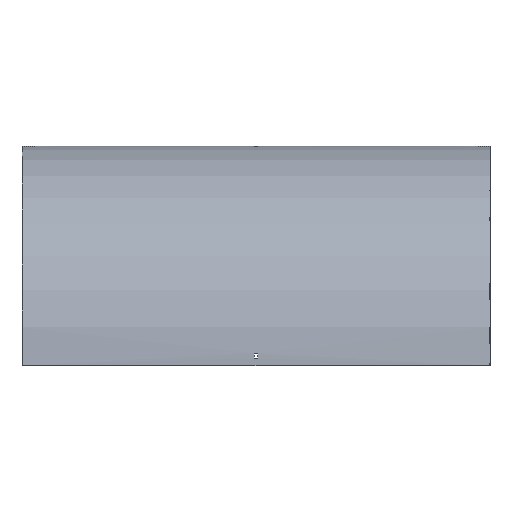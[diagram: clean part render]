
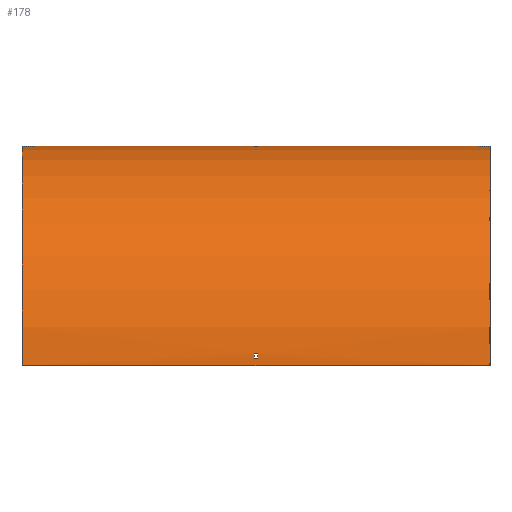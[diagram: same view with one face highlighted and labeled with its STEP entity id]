
A CAD part, top view. The second image highlights one B-rep face of the part: STEP entity #178.
In plain terms, the highlighted cylindrical face has radius 376.5 mm (diameter 753 mm), a partial arc.
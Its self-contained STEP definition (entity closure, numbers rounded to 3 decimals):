
#2 = DIRECTION ( 'NONE',  ( 0., 0., -1. ) ) ;
#4 = CIRCLE ( 'NONE', #183, 376.5 ) ;
#13 = AXIS2_PLACEMENT_3D ( 'NONE', #404, #540, #173 ) ;
#15 = EDGE_CURVE ( 'NONE', #393, #570, #34, .T. ) ;
#16 = EDGE_CURVE ( 'NONE', #493, #180, #278, .T. ) ;
#20 = CIRCLE ( 'NONE', #408, 376.5 ) ;
#34 = LINE ( 'NONE', #330, #565 ) ;
#35 = CIRCLE ( 'NONE', #409, 376.5 ) ;
#38 = DIRECTION ( 'NONE',  ( -1., 0., 0. ) ) ;
#39 = FACE_OUTER_BOUND ( 'NONE', #499, .T. ) ;
#55 = ORIENTED_EDGE ( 'NONE', *, *, #69, .T. ) ;
#61 = EDGE_CURVE ( 'NONE', #428, #260, #424, .T. ) ;
#62 = ORIENTED_EDGE ( 'NONE', *, *, #201, .F. ) ;
#69 = EDGE_CURVE ( 'NONE', #536, #566, #194, .T. ) ;
#77 = EDGE_CURVE ( 'NONE', #180, #547, #186, .T. ) ;
#84 = EDGE_LOOP ( 'NONE', ( #486, #598, #377, #535 ) ) ;
#98 = CARTESIAN_POINT ( 'NONE',  ( 401.5, 0., 0. ) ) ;
#103 = EDGE_CURVE ( 'NONE', #566, #260, #35, .T. ) ;
#105 = CIRCLE ( 'NONE', #568, 376.5 ) ;
#106 = CARTESIAN_POINT ( 'NONE',  ( 401.5, 0., 0. ) ) ;
#107 = DIRECTION ( 'NONE',  ( 1., 0., 0. ) ) ;
#113 = CARTESIAN_POINT ( 'NONE',  ( -3.25, -355.5, 375.914 ) ) ;
#116 = DIRECTION ( 'NONE',  ( 0., 0., -1. ) ) ;
#157 = ORIENTED_EDGE ( 'NONE', *, *, #103, .T. ) ;
#165 = CARTESIAN_POINT ( 'NONE',  ( -401.5, 0., 0. ) ) ;
#169 = LINE ( 'NONE', #357, #458 ) ;
#173 = DIRECTION ( 'NONE',  ( 0., 0., 1. ) ) ;
#177 = VERTEX_POINT ( 'NONE', #505 ) ;
#178 = ADVANCED_FACE ( 'NONE', ( #39, #491, #231 ), #501, .T. ) ;
#180 = VERTEX_POINT ( 'NONE', #420 ) ;
#183 = AXIS2_PLACEMENT_3D ( 'NONE', #255, #38, #315 ) ;
#186 = LINE ( 'NONE', #471, #329 ) ;
#194 = LINE ( 'NONE', #98, #295 ) ;
#200 = ORIENTED_EDGE ( 'NONE', *, *, #219, .F. ) ;
#201 = EDGE_CURVE ( 'NONE', #536, #428, #336, .T. ) ;
#207 = ORIENTED_EDGE ( 'NONE', *, *, #225, .F. ) ;
#214 = CARTESIAN_POINT ( 'NONE',  ( 3.25, -376.5, 0. ) ) ;
#219 = EDGE_CURVE ( 'NONE', #570, #457, #105, .T. ) ;
#225 = EDGE_CURVE ( 'NONE', #177, #393, #20, .T. ) ;
#231 = FACE_BOUND ( 'NONE', #300, .T. ) ;
#236 = DIRECTION ( 'NONE',  ( 1., 0., 0. ) ) ;
#237 = CARTESIAN_POINT ( 'NONE',  ( -401.5, -376.5, 0. ) ) ;
#255 = CARTESIAN_POINT ( 'NONE',  ( -3.25, -376.5, 0. ) ) ;
#256 = DIRECTION ( 'NONE',  ( 1., 0., 0. ) ) ;
#260 = VERTEX_POINT ( 'NONE', #553 ) ;
#273 = DIRECTION ( 'NONE',  ( -1., 0., 0. ) ) ;
#278 = CIRCLE ( 'NONE', #340, 376.5 ) ;
#281 = VECTOR ( 'NONE', #379, 1000. ) ;
#282 = DIRECTION ( 'NONE',  ( -1., 0., 0. ) ) ;
#295 = VECTOR ( 'NONE', #282, 1000. ) ;
#298 = DIRECTION ( 'NONE',  ( 1., 0., 0. ) ) ;
#300 = EDGE_LOOP ( 'NONE', ( #200, #318, #207, #396 ) ) ;
#301 = CARTESIAN_POINT ( 'NONE',  ( 3.25, -355.5, 375.914 ) ) ;
#315 = DIRECTION ( 'NONE',  ( 0., 0., 1. ) ) ;
#318 = ORIENTED_EDGE ( 'NONE', *, *, #15, .F. ) ;
#329 = VECTOR ( 'NONE', #516, 1000. ) ;
#330 = CARTESIAN_POINT ( 'NONE',  ( 401.5, -355.5, 375.914 ) ) ;
#332 = EDGE_CURVE ( 'NONE', #457, #177, #524, .T. ) ;
#333 = DIRECTION ( 'NONE',  ( -1., 0., 0. ) ) ;
#335 = VERTEX_POINT ( 'NONE', #365 ) ;
#336 = CIRCLE ( 'NONE', #381, 376.5 ) ;
#340 = AXIS2_PLACEMENT_3D ( 'NONE', #373, #236, #550 ) ;
#343 = EDGE_CURVE ( 'NONE', #547, #335, #4, .T. ) ;
#357 = CARTESIAN_POINT ( 'NONE',  ( 401.5, -0.191, 12. ) ) ;
#360 = CARTESIAN_POINT ( 'NONE',  ( 401.5, -376.5, 0. ) ) ;
#365 = CARTESIAN_POINT ( 'NONE',  ( -3.25, -0.191, 12. ) ) ;
#373 = CARTESIAN_POINT ( 'NONE',  ( 3.25, -376.5, 0. ) ) ;
#377 = ORIENTED_EDGE ( 'NONE', *, *, #449, .T. ) ;
#379 = DIRECTION ( 'NONE',  ( -1., 0., 0. ) ) ;
#381 = AXIS2_PLACEMENT_3D ( 'NONE', #360, #256, #116 ) ;
#391 = CARTESIAN_POINT ( 'NONE',  ( 401.5, -364.5, 376.309 ) ) ;
#393 = VERTEX_POINT ( 'NONE', #301 ) ;
#396 = ORIENTED_EDGE ( 'NONE', *, *, #332, .F. ) ;
#398 = DIRECTION ( 'NONE',  ( 0., 0., 1. ) ) ;
#404 = CARTESIAN_POINT ( 'NONE',  ( 401.5, -376.5, 0. ) ) ;
#408 = AXIS2_PLACEMENT_3D ( 'NONE', #214, #273, #398 ) ;
#409 = AXIS2_PLACEMENT_3D ( 'NONE', #237, #429, #2 ) ;
#420 = CARTESIAN_POINT ( 'NONE',  ( 3.25, -0.586, 21. ) ) ;
#424 = LINE ( 'NONE', #520, #281 ) ;
#428 = VERTEX_POINT ( 'NONE', #492 ) ;
#429 = DIRECTION ( 'NONE',  ( 1., 0., 0. ) ) ;
#444 = CARTESIAN_POINT ( 'NONE',  ( 3.25, -0.191, 12. ) ) ;
#448 = CARTESIAN_POINT ( 'NONE',  ( -3.25, -376.5, 0. ) ) ;
#449 = EDGE_CURVE ( 'NONE', #335, #493, #169, .T. ) ;
#455 = DIRECTION ( 'NONE',  ( 0., 1., 0. ) ) ;
#457 = VERTEX_POINT ( 'NONE', #538 ) ;
#458 = VECTOR ( 'NONE', #107, 1000. ) ;
#459 = DIRECTION ( 'NONE',  ( 1., 0., 0. ) ) ;
#471 = CARTESIAN_POINT ( 'NONE',  ( 401.5, -0.586, 21. ) ) ;
#484 = CARTESIAN_POINT ( 'NONE',  ( -3.25, -0.586, 21. ) ) ;
#486 = ORIENTED_EDGE ( 'NONE', *, *, #77, .T. ) ;
#491 = FACE_BOUND ( 'NONE', #84, .T. ) ;
#492 = CARTESIAN_POINT ( 'NONE',  ( 401.5, -376.5, 376.5 ) ) ;
#493 = VERTEX_POINT ( 'NONE', #444 ) ;
#499 = EDGE_LOOP ( 'NONE', ( #157, #527, #62, #55 ) ) ;
#501 = CYLINDRICAL_SURFACE ( 'NONE', #13, 376.5 ) ;
#505 = CARTESIAN_POINT ( 'NONE',  ( 3.25, -364.5, 376.309 ) ) ;
#507 = VECTOR ( 'NONE', #298, 1000. ) ;
#516 = DIRECTION ( 'NONE',  ( -1., 0., 0. ) ) ;
#520 = CARTESIAN_POINT ( 'NONE',  ( 401.5, -376.5, 376.5 ) ) ;
#524 = LINE ( 'NONE', #391, #507 ) ;
#527 = ORIENTED_EDGE ( 'NONE', *, *, #61, .F. ) ;
#535 = ORIENTED_EDGE ( 'NONE', *, *, #16, .T. ) ;
#536 = VERTEX_POINT ( 'NONE', #106 ) ;
#538 = CARTESIAN_POINT ( 'NONE',  ( -3.25, -364.5, 376.309 ) ) ;
#540 = DIRECTION ( 'NONE',  ( -1., 0., 0. ) ) ;
#547 = VERTEX_POINT ( 'NONE', #484 ) ;
#550 = DIRECTION ( 'NONE',  ( 0., 0., -1. ) ) ;
#553 = CARTESIAN_POINT ( 'NONE',  ( -401.5, -376.5, 376.5 ) ) ;
#565 = VECTOR ( 'NONE', #333, 1000. ) ;
#566 = VERTEX_POINT ( 'NONE', #165 ) ;
#568 = AXIS2_PLACEMENT_3D ( 'NONE', #448, #459, #455 ) ;
#570 = VERTEX_POINT ( 'NONE', #113 ) ;
#598 = ORIENTED_EDGE ( 'NONE', *, *, #343, .T. ) ;
